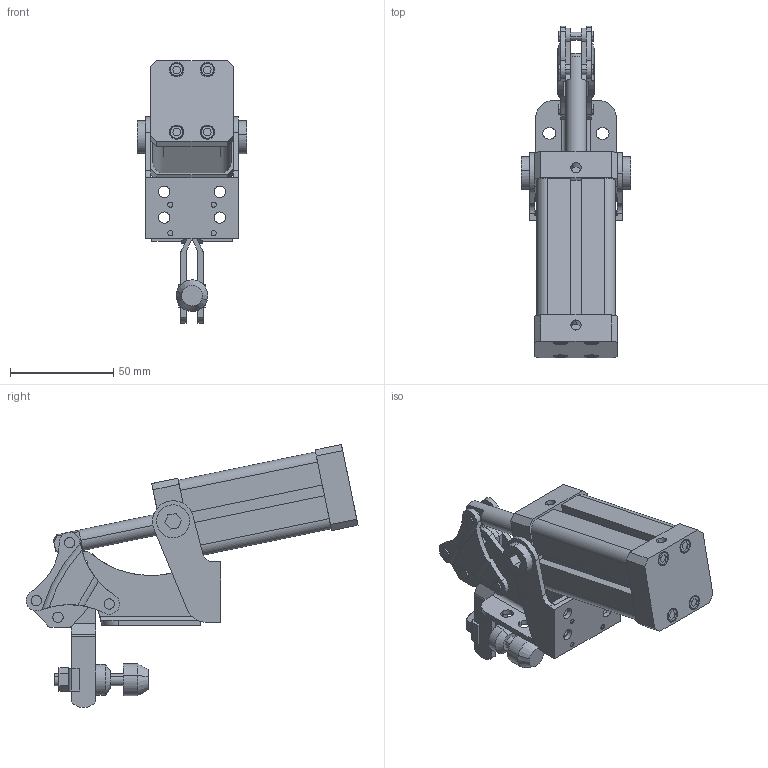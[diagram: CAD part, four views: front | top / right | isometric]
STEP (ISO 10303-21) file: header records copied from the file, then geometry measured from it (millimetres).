
FILE_DESCRIPTION (( 'STEP AP214' ), '1' );
FILE_NAME ('600-2 Montaj.STEP', '2017-06-08T12:23:17', ( '' ), ( '' ), 'SwSTEP 2.0', 'SolidWorks 2015', '' );
FILE_SCHEMA (( 'AUTOMOTIVE_DESIGN' ));
Length unit declared in the file: millimetre
Products named in the file (20): 600-2-17 piston ayagi; 600-2 Montaj; 600-2-15 montaj percini2; 600-2-14 montaj percini; 600-2-16 Part1; 600-2-13 mil; 600-2-12 kilitleme üçgeni; 600-2-30 tirnak; 600-2-5 Part6; 600-2-7 u papuc; 600-2-6 somun; 600-2-4 ozel somun; 600-2-3 lastik; 600-2-2 civata; 600-2-10 lama; 600-2-1; 600-2-18 Part4; 600-2-9 ayak; 600-2-8 ayak 2
Assembly tree (24 placements, depth 2):
  600-2 Montaj
    600-2-8 ayak 2
    600-2-9 ayak
    600-2-18 Part4
    600-2-1
    600-2-10 lama
    600-2-10 lama
    600-2-2 civata
    600-2-3 lastik
    600-2-4 ozel somun
    600-2-6 somun
    600-2-7 u papuc
    600-2-5 Part6
    600-2-30 tirnak  x2
    600-2-12 kilitleme üçgeni  x2
    600-2-13 mil
    600-2-16 Part1  x2
    600-2-14 montaj percini  x3
    600-2-15 montaj percini2
    600-2-17 piston ayagi
Bounding box: 53 x 161.14 x 127.61 mm (x, y, z)
Volume: 182918.7 mm3; surface area: 63445 mm2
Topology: 24 solids, 24 shells, 698 faces, 1755 edges, 1168 vertices
Faces by surface type: plane 374, cylinder 259, bspline 57, cone 8
Entity records: 24411 total; most frequent: CARTESIAN_POINT 7020, ORIENTED_EDGE 3198, DIRECTION 3119, EDGE_CURVE 1599, VERTEX_POINT 1064, AXIS2_PLACEMENT_3D 1049, LINE 1021, VECTOR 1021
